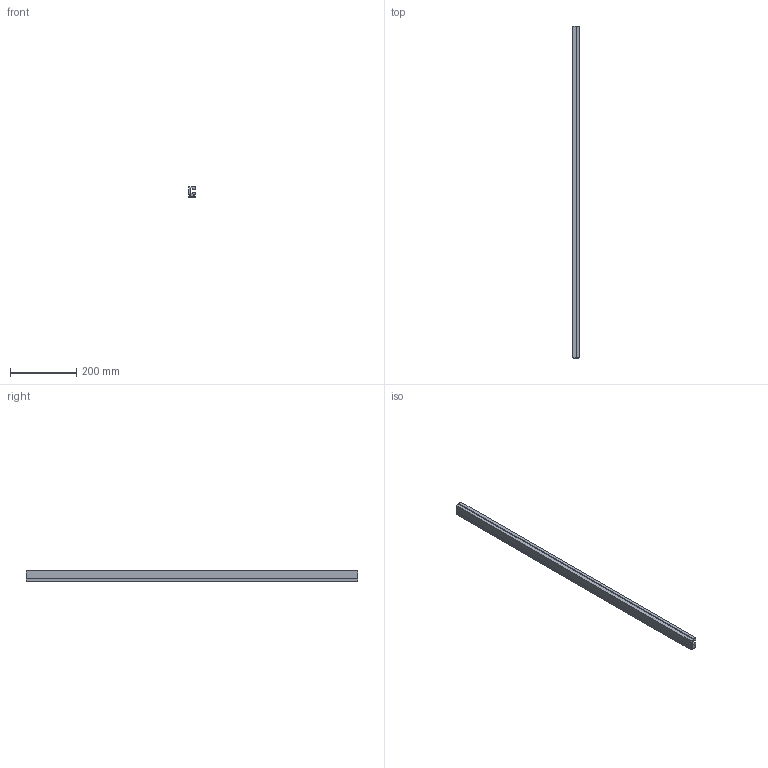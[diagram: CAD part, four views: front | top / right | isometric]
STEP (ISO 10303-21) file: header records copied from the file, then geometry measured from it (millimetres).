
FILE_DESCRIPTION(('CATIA V5 STEP Exchange'),'2;1');
FILE_NAME('C:\Users\ALI OZGUN\Desktop\alhan\PROFILLER\2071TTC58.stp','2017-12-29T14:03:21+00:00',('none'),('none'),'CATIA Version 5 Release 21 GA (IN-10)','CATIA V5 STEP AP203','none');
FILE_SCHEMA(('CONFIG_CONTROL_DESIGN'));
Length unit declared in the file: millimetre
Products named in the file (1): 2071TTC58
Bounding box: 20 x 1000 x 36 mm (x, y, z)
Volume: 483081.6 mm3; surface area: 250049.3 mm2
Topology: 2 solids, 2 shells, 42 faces, 114 edges, 76 vertices
Faces by surface type: plane 38, cylinder 4
Entity records: 1273 total; most frequent: ORIENTED_EDGE 228, CARTESIAN_POINT 220, DIRECTION 172, EDGE_CURVE 114, VECTOR 106, LINE 106, VERTEX_POINT 76, ADVANCED_FACE 42
